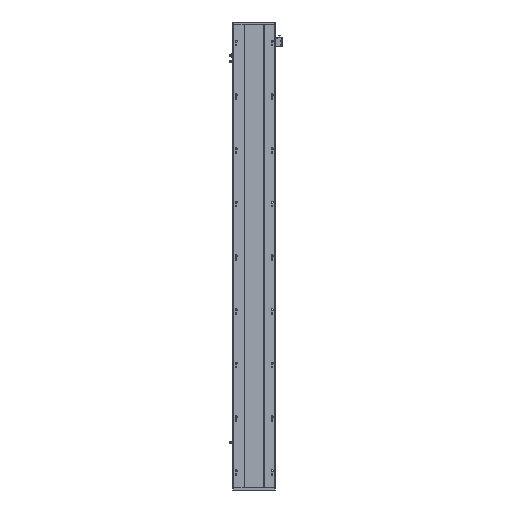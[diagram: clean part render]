
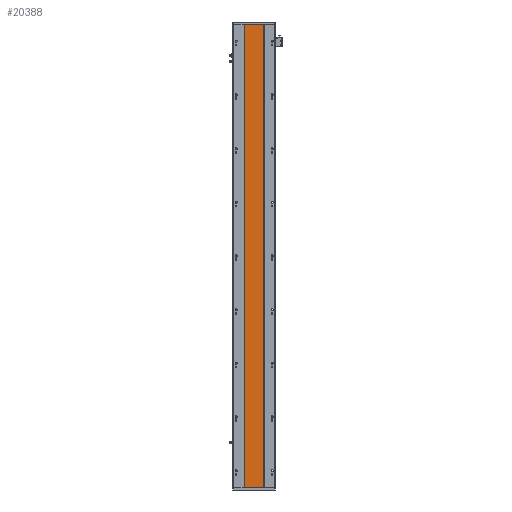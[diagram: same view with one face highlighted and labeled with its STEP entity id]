
A CAD part, front view. The second image highlights one B-rep face of the part: STEP entity #20388.
In plain terms, the highlighted planar face has unit normal (0, -1, 0).
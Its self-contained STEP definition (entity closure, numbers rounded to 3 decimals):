
#446 = VERTEX_POINT ( 'NONE', #34844 ) ;
#510 = DIRECTION ( 'NONE',  ( 0., 1., 0. ) ) ;
#2647 = VERTEX_POINT ( 'NONE', #20912 ) ;
#3731 = DIRECTION ( 'NONE',  ( 0., 0., -1. ) ) ;
#3743 = VERTEX_POINT ( 'NONE', #7003 ) ;
#4011 = EDGE_CURVE ( 'NONE', #446, #5715, #13207, .T. ) ;
#4946 = ORIENTED_EDGE ( 'NONE', *, *, #4011, .T. ) ;
#5715 = VERTEX_POINT ( 'NONE', #16942 ) ;
#6808 = CARTESIAN_POINT ( 'NONE',  ( 129.288, 16.9, 1864. ) ) ;
#7003 = CARTESIAN_POINT ( 'NONE',  ( 205.288, 16.9, 1864. ) ) ;
#7236 = VECTOR ( 'NONE', #3731, 1000. ) ;
#7438 = EDGE_CURVE ( 'NONE', #446, #3743, #9345, .T. ) ;
#7459 = FACE_OUTER_BOUND ( 'NONE', #35223, .T. ) ;
#7871 = AXIS2_PLACEMENT_3D ( 'NONE', #35763, #510, #27008 ) ;
#9240 = LINE ( 'NONE', #26089, #28125 ) ;
#9345 = LINE ( 'NONE', #36118, #26865 ) ;
#13207 = LINE ( 'NONE', #6808, #7236 ) ;
#15033 = LINE ( 'NONE', #33774, #21519 ) ;
#16942 = CARTESIAN_POINT ( 'NONE',  ( 129.288, 16.9, 0. ) ) ;
#18675 = ORIENTED_EDGE ( 'NONE', *, *, #7438, .F. ) ;
#20388 = ADVANCED_FACE ( 'NONE', ( #7459 ), #20951, .F. ) ;
#20495 = ORIENTED_EDGE ( 'NONE', *, *, #28880, .T. ) ;
#20912 = CARTESIAN_POINT ( 'NONE',  ( 205.288, 16.9, 0. ) ) ;
#20951 = PLANE ( 'NONE',  #7871 ) ;
#21519 = VECTOR ( 'NONE', #27855, 1000. ) ;
#25912 = EDGE_CURVE ( 'NONE', #3743, #2647, #9240, .T. ) ;
#26089 = CARTESIAN_POINT ( 'NONE',  ( 205.288, 16.9, 1864. ) ) ;
#26865 = VECTOR ( 'NONE', #27498, 1000. ) ;
#27008 = DIRECTION ( 'NONE',  ( -1., 0., 0. ) ) ;
#27498 = DIRECTION ( 'NONE',  ( 1., 0., 0. ) ) ;
#27648 = ORIENTED_EDGE ( 'NONE', *, *, #25912, .F. ) ;
#27855 = DIRECTION ( 'NONE',  ( 1., 0., 0. ) ) ;
#28125 = VECTOR ( 'NONE', #34714, 1000. ) ;
#28880 = EDGE_CURVE ( 'NONE', #5715, #2647, #15033, .T. ) ;
#33774 = CARTESIAN_POINT ( 'NONE',  ( 205.288, 16.9, 0. ) ) ;
#34714 = DIRECTION ( 'NONE',  ( 0., 0., -1. ) ) ;
#34844 = CARTESIAN_POINT ( 'NONE',  ( 129.288, 16.9, 1864. ) ) ;
#35223 = EDGE_LOOP ( 'NONE', ( #20495, #27648, #18675, #4946 ) ) ;
#35763 = CARTESIAN_POINT ( 'NONE',  ( 205.288, 16.9, 1864. ) ) ;
#36118 = CARTESIAN_POINT ( 'NONE',  ( 129.288, 16.9, 1864. ) ) ;
